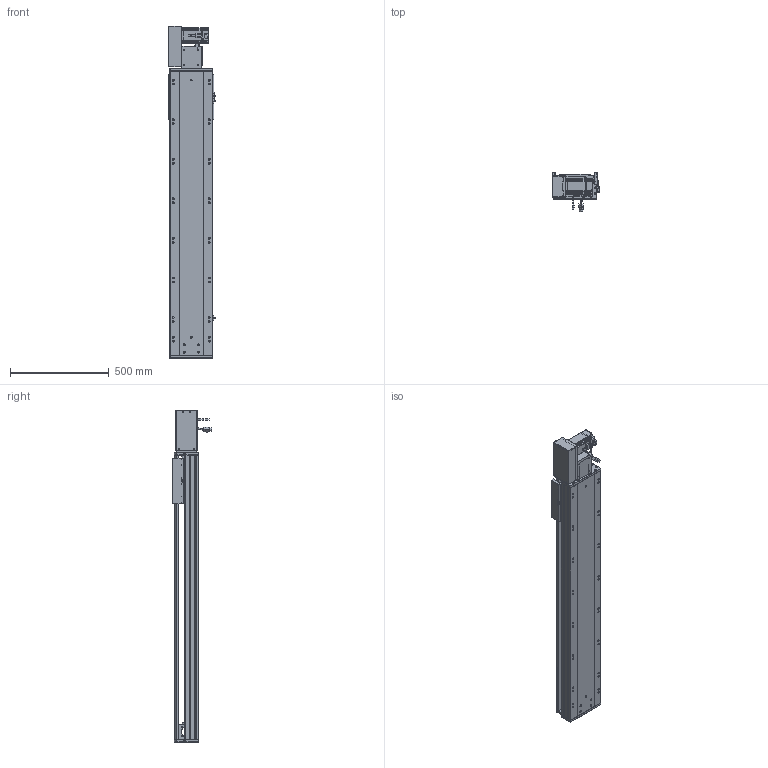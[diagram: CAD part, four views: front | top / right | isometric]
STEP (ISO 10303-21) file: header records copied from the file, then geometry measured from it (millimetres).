
FILE_DESCRIPTION (( 'STEP AP203' ), '1' );
FILE_NAME ('RY220-T-300-LK.SLDASM_1100.step', '2022-07-25T08:14:01', ( '' ), ( '' ), 'SwSTEP 2.0', 'SolidWorks 2016', '' );
FILE_SCHEMA (( 'CONFIG_CONTROL_DESIGN' ));
Length unit declared in the file: millimetre
Products named in the file (14): RY220-T-300-奻裔啣_1100; RY220-同步轮副支撑座6304×2; 怢湛750W_ECMA-CX0807ES; RY220-T-蛌殏萇儂假蚾啣(750W); RY220-T-300-LK.SLDASM_1100; RY220-T-湍謫欶(鍼踢); RY220翋肮祭謫裔啣; RY220-T菁釱-300_1100; 滅袉蝶18-15; RY220-俋离672覜茼んえ; RY220圉猾敕々湍臏賑輸; 110A-T-肮祭謫釱傷裔; RY220翋肮祭謫釱; 覜茼ん672
Assembly tree (18 placements, depth 2):
  RY220-T-300-LK.SLDASM_1100
    RY220-T菁釱-300_1100
    RY220翋肮祭謫釱
    覜茼ん672  x3
    RY220圉猾敕々湍臏賑輸
    RY220-T-300-奻裔啣_1100
    RY220-俋离672覜茼んえ
    滅袉蝶18-15  x3
    RY220翋肮祭謫裔啣  x2
    110A-T-肮祭謫釱傷裔
    怢湛750W_ECMA-CX0807ES
    RY220-T-湍謫欶(鍼踢)
    RY220-T-蛌殏萇儂假蚾啣(750W)
    RY220-同步轮副支撑座6304×2
Bounding box: 239.7 x 198.77 x 1679 mm (x, y, z)
Volume: 12906100.4 mm3; surface area: 3791379.4 mm2
Topology: 19 solids, 19 shells, 2646 faces, 7303 edges, 4632 vertices
Faces by surface type: cylinder 1242, plane 1069, cone 253, bspline 56, sphere 16, torus 10
Entity records: 88083 total; most frequent: CARTESIAN_POINT 25133, ORIENTED_EDGE 13082, DIRECTION 12368, EDGE_CURVE 6541, AXIS2_PLACEMENT_3D 4376, VERTEX_POINT 4256, VECTOR 3616, LINE 3616
